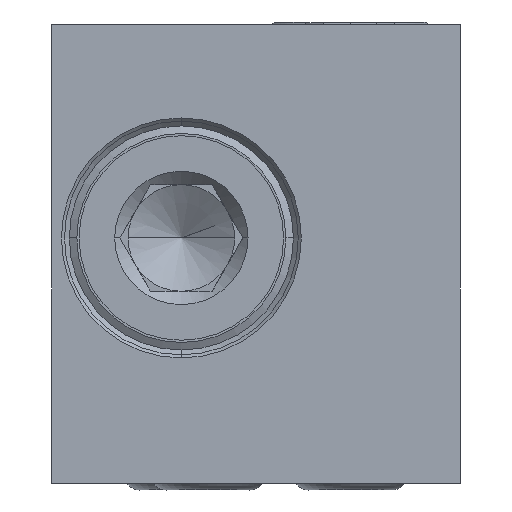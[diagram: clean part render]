
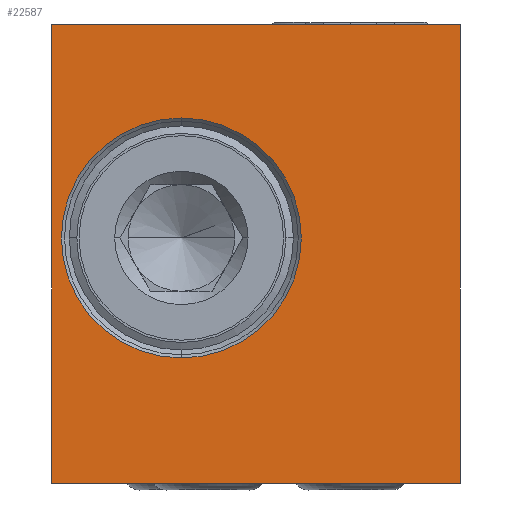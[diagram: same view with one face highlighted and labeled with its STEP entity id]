
A CAD part, left-side view. The second image highlights one B-rep face of the part: STEP entity #22587.
In plain terms, the highlighted planar face has unit normal (-1, 0, 0).
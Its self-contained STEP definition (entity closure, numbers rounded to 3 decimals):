
#4173=DIRECTION('',(0.,0.,1.));
#4174=VECTOR('',#4173,25.8);
#4175=CARTESIAN_POINT('',(-38.,11.5,-12.9));
#4176=LINE('',#4175,#4174);
#4177=DIRECTION('',(0.,-1.,0.));
#4178=VECTOR('',#4177,23.);
#4179=CARTESIAN_POINT('',(-38.,11.5,12.9));
#4180=LINE('',#4179,#4178);
#4181=DIRECTION('',(0.,0.,-1.));
#4182=VECTOR('',#4181,25.8);
#4183=CARTESIAN_POINT('',(-38.,-11.5,12.9));
#4184=LINE('',#4183,#4182);
#4185=DIRECTION('',(0.,1.,0.));
#4186=VECTOR('',#4185,23.);
#4187=CARTESIAN_POINT('',(-38.,-11.5,-12.9));
#4188=LINE('',#4187,#4186);
#4189=CARTESIAN_POINT('',(-38.,4.2,0.9));
#4190=DIRECTION('',(-1.,0.,0.));
#4191=DIRECTION('',(0.,0.,-1.));
#4192=AXIS2_PLACEMENT_3D('',#4189,#4190,#4191);
#4194=CARTESIAN_POINT('',(-38.,4.2,0.9));
#4195=DIRECTION('',(-1.,0.,0.));
#4196=DIRECTION('',(0.,0.,1.));
#4197=AXIS2_PLACEMENT_3D('',#4194,#4195,#4196);
#15415=CARTESIAN_POINT('',(-38.,11.5,12.9));
#15416=VERTEX_POINT('',#15415);
#15417=CARTESIAN_POINT('',(-38.,11.5,-12.9));
#15418=VERTEX_POINT('',#15417);
#15419=CARTESIAN_POINT('',(-38.,-11.5,12.9));
#15420=VERTEX_POINT('',#15419);
#15441=CARTESIAN_POINT('',(-38.,-11.5,-12.9));
#15442=VERTEX_POINT('',#15441);
#15487=CARTESIAN_POINT('',(-38.,4.2,-5.85));
#15488=CARTESIAN_POINT('',(-38.,4.2,7.65));
#15489=VERTEX_POINT('',#15487);
#15490=VERTEX_POINT('',#15488);
#22568=CARTESIAN_POINT('',(-38.,0.,0.));
#22569=DIRECTION('',(-1.,0.,0.));
#22570=DIRECTION('',(0.,-1.,0.));
#22571=AXIS2_PLACEMENT_3D('',#22568,#22569,#22570);
#22572=PLANE('',#22571);
#22573=ORIENTED_EDGE('',*,*,#22561,.T.);
#22574=ORIENTED_EDGE('',*,*,#20213,.T.);
#22576=ORIENTED_EDGE('',*,*,#22575,.T.);
#22578=ORIENTED_EDGE('',*,*,#22577,.T.);
#22579=EDGE_LOOP('',(#22573,#22574,#22576,#22578));
#22580=FACE_OUTER_BOUND('',#22579,.F.);
#22582=ORIENTED_EDGE('',*,*,#22581,.T.);
#22584=ORIENTED_EDGE('',*,*,#22583,.T.);
#22585=EDGE_LOOP('',(#22582,#22584));
#22586=FACE_BOUND('',#22585,.F.);
#22587=ADVANCED_FACE('',(#22580,#22586),#22572,.T.);
#4193=CIRCLE('',#4192,6.75);
#4198=CIRCLE('',#4197,6.75);
#20213=EDGE_CURVE('',#15416,#15420,#4180,.T.);
#22561=EDGE_CURVE('',#15418,#15416,#4176,.T.);
#22575=EDGE_CURVE('',#15420,#15442,#4184,.T.);
#22577=EDGE_CURVE('',#15442,#15418,#4188,.T.);
#22581=EDGE_CURVE('',#15489,#15490,#4193,.T.);
#22583=EDGE_CURVE('',#15490,#15489,#4198,.T.);
